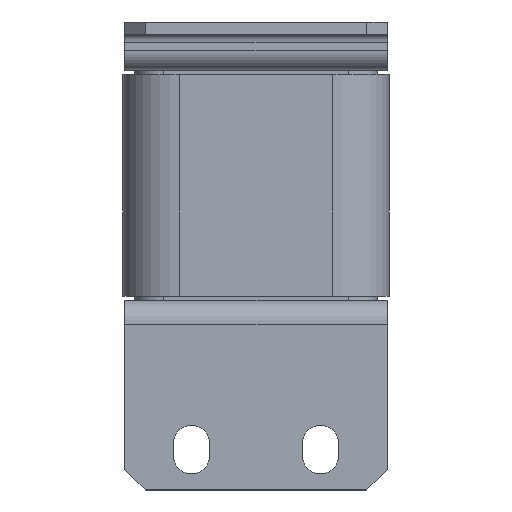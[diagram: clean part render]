
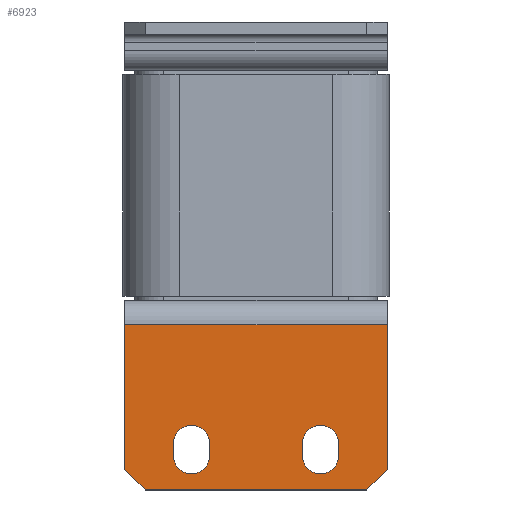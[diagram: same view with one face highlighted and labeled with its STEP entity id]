
A CAD part, front view. The second image highlights one B-rep face of the part: STEP entity #6923.
In plain terms, the highlighted planar face has unit normal (0, -1, 0).
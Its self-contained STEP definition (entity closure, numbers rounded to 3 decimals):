
#64 = ORIENTED_EDGE ( 'NONE', *, *, #2293, .T. ) ;
#168 = CARTESIAN_POINT ( 'NONE',  ( -50.368, -16.503, -94.5 ) ) ;
#207 = DIRECTION ( 'NONE',  ( 0., 0., 1. ) ) ;
#256 = DIRECTION ( 'NONE',  ( 0., -1., 0. ) ) ;
#304 = VECTOR ( 'NONE', #13397, 1000. ) ;
#440 = CIRCLE ( 'NONE', #6104, 4.5 ) ;
#509 = CARTESIAN_POINT ( 'NONE',  ( -57.368, -16.503, -103. ) ) ;
#952 = VERTEX_POINT ( 'NONE', #8297 ) ;
#963 = VERTEX_POINT ( 'NONE', #9415 ) ;
#1125 = DIRECTION ( 'NONE',  ( 1., 0., 0. ) ) ;
#1152 = AXIS2_PLACEMENT_3D ( 'NONE', #9419, #2659, #6081 ) ;
#1170 = CARTESIAN_POINT ( 'NONE',  ( -9.368, -16.503, -94.5 ) ) ;
#1250 = EDGE_CURVE ( 'NONE', #1769, #7248, #12061, .T. ) ;
#1422 = DIRECTION ( 'NONE',  ( 0., -1., 0. ) ) ;
#1595 = EDGE_CURVE ( 'NONE', #2681, #8225, #12198, .T. ) ;
#1769 = VERTEX_POINT ( 'NONE', #12005 ) ;
#1875 = EDGE_CURVE ( 'NONE', #7248, #3038, #4890, .T. ) ;
#1923 = DIRECTION ( 'NONE',  ( 0., 0., 1. ) ) ;
#1982 = ORIENTED_EDGE ( 'NONE', *, *, #1250, .F. ) ;
#2159 = EDGE_CURVE ( 'NONE', #952, #3716, #440, .T. ) ;
#2293 = EDGE_CURVE ( 'NONE', #9846, #12823, #8742, .T. ) ;
#2346 = FACE_BOUND ( 'NONE', #9428, .T. ) ;
#2433 = DIRECTION ( 'NONE',  ( 0., -1., 0. ) ) ;
#2542 = CARTESIAN_POINT ( 'NONE',  ( -62.368, -16.503, -62. ) ) ;
#2659 = DIRECTION ( 'NONE',  ( 0., -1., 0. ) ) ;
#2681 = VERTEX_POINT ( 'NONE', #4518 ) ;
#2765 = CARTESIAN_POINT ( 'NONE',  ( -62.368, -16.503, -98. ) ) ;
#2812 = DIRECTION ( 'NONE',  ( 0., 0., -1. ) ) ;
#2907 = ORIENTED_EDGE ( 'NONE', *, *, #2159, .F. ) ;
#3038 = VERTEX_POINT ( 'NONE', #6482 ) ;
#3045 = FACE_OUTER_BOUND ( 'NONE', #7332, .T. ) ;
#3343 = LINE ( 'NONE', #6739, #304 ) ;
#3438 = CARTESIAN_POINT ( 'NONE',  ( -9.368, -16.503, -94.5 ) ) ;
#3557 = ORIENTED_EDGE ( 'NONE', *, *, #6084, .F. ) ;
#3597 = DIRECTION ( 'NONE',  ( 0., -1., 0. ) ) ;
#3599 = CARTESIAN_POINT ( 'NONE',  ( -13.868, -16.503, -94.5 ) ) ;
#3628 = VECTOR ( 'NONE', #13030, 1000. ) ;
#3630 = VERTEX_POINT ( 'NONE', #8859 ) ;
#3633 = CARTESIAN_POINT ( 'NONE',  ( -45.868, -16.503, -94.5 ) ) ;
#3688 = AXIS2_PLACEMENT_3D ( 'NONE', #6026, #11878, #6123 ) ;
#3716 = VERTEX_POINT ( 'NONE', #3438 ) ;
#3954 = DIRECTION ( 'NONE',  ( 0., 0., -1. ) ) ;
#4076 = CARTESIAN_POINT ( 'NONE',  ( -2.368, -16.503, -103. ) ) ;
#4140 = CARTESIAN_POINT ( 'NONE',  ( 2.632, -16.503, -59. ) ) ;
#4303 = AXIS2_PLACEMENT_3D ( 'NONE', #7878, #4521, #6777 ) ;
#4518 = CARTESIAN_POINT ( 'NONE',  ( -62.368, -16.503, -62. ) ) ;
#4521 = DIRECTION ( 'NONE',  ( 0., -1., 0. ) ) ;
#4558 = DIRECTION ( 'NONE',  ( 1., 0., 0. ) ) ;
#4727 = DIRECTION ( 'NONE',  ( 0., 0., -1. ) ) ;
#4791 = LINE ( 'NONE', #168, #7967 ) ;
#4890 = LINE ( 'NONE', #9665, #13993 ) ;
#4943 = CARTESIAN_POINT ( 'NONE',  ( -18.368, -16.503, -91.5 ) ) ;
#4989 = ORIENTED_EDGE ( 'NONE', *, *, #7389, .T. ) ;
#5542 = VECTOR ( 'NONE', #13847, 1000. ) ;
#5794 = EDGE_CURVE ( 'NONE', #3038, #952, #13823, .T. ) ;
#6026 = CARTESIAN_POINT ( 'NONE',  ( -62.368, -16.503, -59. ) ) ;
#6066 = ORIENTED_EDGE ( 'NONE', *, *, #11989, .F. ) ;
#6081 = DIRECTION ( 'NONE',  ( 0., 0., 1. ) ) ;
#6084 = EDGE_CURVE ( 'NONE', #963, #9418, #13063, .T. ) ;
#6104 = AXIS2_PLACEMENT_3D ( 'NONE', #12801, #3597, #7073 ) ;
#6123 = DIRECTION ( 'NONE',  ( 0., 0., -1. ) ) ;
#6124 = ORIENTED_EDGE ( 'NONE', *, *, #1875, .F. ) ;
#6159 = CARTESIAN_POINT ( 'NONE',  ( -41.368, -16.503, -94.5 ) ) ;
#6216 = CARTESIAN_POINT ( 'NONE',  ( -2.368, -16.503, -103. ) ) ;
#6482 = CARTESIAN_POINT ( 'NONE',  ( -18.368, -16.503, -94.5 ) ) ;
#6572 = CARTESIAN_POINT ( 'NONE',  ( -45.868, -16.503, -99. ) ) ;
#6739 = CARTESIAN_POINT ( 'NONE',  ( -41.368, -16.503, -94.5 ) ) ;
#6777 = DIRECTION ( 'NONE',  ( 0., 0., -1. ) ) ;
#6923 = ADVANCED_FACE ( 'NONE', ( #10636, #2346, #3045 ), #14047, .F. ) ;
#7004 = EDGE_CURVE ( 'NONE', #2681, #9740, #9041, .T. ) ;
#7073 = DIRECTION ( 'NONE',  ( 0., 0., -1. ) ) ;
#7125 = ORIENTED_EDGE ( 'NONE', *, *, #14594, .F. ) ;
#7161 = EDGE_CURVE ( 'NONE', #12823, #8225, #13697, .T. ) ;
#7248 = VERTEX_POINT ( 'NONE', #4943 ) ;
#7332 = EDGE_LOOP ( 'NONE', ( #9768, #12840, #4989, #10353, #64, #11644 ) ) ;
#7389 = EDGE_CURVE ( 'NONE', #9740, #12113, #8841, .T. ) ;
#7467 = LINE ( 'NONE', #8979, #11253 ) ;
#7495 = EDGE_LOOP ( 'NONE', ( #12107, #6124, #1982, #13086, #2907 ) ) ;
#7836 = EDGE_CURVE ( 'NONE', #8779, #3630, #3343, .T. ) ;
#7878 = CARTESIAN_POINT ( 'NONE',  ( -13.868, -16.503, -91.5 ) ) ;
#7967 = VECTOR ( 'NONE', #12609, 1000. ) ;
#8171 = LINE ( 'NONE', #1170, #5542 ) ;
#8225 = VERTEX_POINT ( 'NONE', #12123 ) ;
#8297 = CARTESIAN_POINT ( 'NONE',  ( -13.868, -16.503, -99. ) ) ;
#8374 = AXIS2_PLACEMENT_3D ( 'NONE', #3633, #1422, #12789 ) ;
#8484 = CARTESIAN_POINT ( 'NONE',  ( -62.368, -16.503, -98. ) ) ;
#8722 = AXIS2_PLACEMENT_3D ( 'NONE', #12642, #256, #207 ) ;
#8742 = LINE ( 'NONE', #6216, #3628 ) ;
#8779 = VERTEX_POINT ( 'NONE', #6159 ) ;
#8803 = AXIS2_PLACEMENT_3D ( 'NONE', #3599, #2433, #4727 ) ;
#8841 = LINE ( 'NONE', #509, #11511 ) ;
#8859 = CARTESIAN_POINT ( 'NONE',  ( -41.368, -16.503, -91.5 ) ) ;
#8979 = CARTESIAN_POINT ( 'NONE',  ( -2.368, -16.503, -103. ) ) ;
#9041 = LINE ( 'NONE', #2765, #14067 ) ;
#9102 = CIRCLE ( 'NONE', #8722, 4.5 ) ;
#9120 = ORIENTED_EDGE ( 'NONE', *, *, #7836, .F. ) ;
#9415 = CARTESIAN_POINT ( 'NONE',  ( -50.368, -16.503, -94.5 ) ) ;
#9418 = VERTEX_POINT ( 'NONE', #6572 ) ;
#9419 = CARTESIAN_POINT ( 'NONE',  ( -45.868, -16.503, -94.5 ) ) ;
#9428 = EDGE_LOOP ( 'NONE', ( #3557, #10163, #7125, #9120, #6066 ) ) ;
#9492 = VERTEX_POINT ( 'NONE', #14780 ) ;
#9542 = DIRECTION ( 'NONE',  ( 0.707, 0., -0.707 ) ) ;
#9662 = VECTOR ( 'NONE', #4558, 1000. ) ;
#9665 = CARTESIAN_POINT ( 'NONE',  ( -18.368, -16.503, -94.5 ) ) ;
#9740 = VERTEX_POINT ( 'NONE', #8484 ) ;
#9768 = ORIENTED_EDGE ( 'NONE', *, *, #1595, .F. ) ;
#9846 = VERTEX_POINT ( 'NONE', #4076 ) ;
#10163 = ORIENTED_EDGE ( 'NONE', *, *, #11178, .F. ) ;
#10353 = ORIENTED_EDGE ( 'NONE', *, *, #14445, .T. ) ;
#10636 = FACE_BOUND ( 'NONE', #7495, .T. ) ;
#10637 = CARTESIAN_POINT ( 'NONE',  ( -57.368, -16.503, -103. ) ) ;
#10949 = CIRCLE ( 'NONE', #8374, 4.5 ) ;
#11178 = EDGE_CURVE ( 'NONE', #9492, #963, #4791, .T. ) ;
#11253 = VECTOR ( 'NONE', #1125, 1000. ) ;
#11511 = VECTOR ( 'NONE', #9542, 1000. ) ;
#11644 = ORIENTED_EDGE ( 'NONE', *, *, #7161, .T. ) ;
#11878 = DIRECTION ( 'NONE',  ( 0., 1., 0. ) ) ;
#11989 = EDGE_CURVE ( 'NONE', #9418, #8779, #10949, .T. ) ;
#12005 = CARTESIAN_POINT ( 'NONE',  ( -9.368, -16.503, -91.5 ) ) ;
#12061 = CIRCLE ( 'NONE', #4303, 4.5 ) ;
#12107 = ORIENTED_EDGE ( 'NONE', *, *, #5794, .F. ) ;
#12113 = VERTEX_POINT ( 'NONE', #10637 ) ;
#12123 = CARTESIAN_POINT ( 'NONE',  ( 2.632, -16.503, -62. ) ) ;
#12198 = LINE ( 'NONE', #2542, #9662 ) ;
#12609 = DIRECTION ( 'NONE',  ( 0., 0., -1. ) ) ;
#12642 = CARTESIAN_POINT ( 'NONE',  ( -45.868, -16.503, -91.5 ) ) ;
#12789 = DIRECTION ( 'NONE',  ( 0., 0., 1. ) ) ;
#12801 = CARTESIAN_POINT ( 'NONE',  ( -13.868, -16.503, -94.5 ) ) ;
#12823 = VERTEX_POINT ( 'NONE', #13051 ) ;
#12840 = ORIENTED_EDGE ( 'NONE', *, *, #7004, .T. ) ;
#13030 = DIRECTION ( 'NONE',  ( 0.707, 0., 0.707 ) ) ;
#13051 = CARTESIAN_POINT ( 'NONE',  ( 2.632, -16.503, -98. ) ) ;
#13063 = CIRCLE ( 'NONE', #1152, 4.5 ) ;
#13086 = ORIENTED_EDGE ( 'NONE', *, *, #13710, .F. ) ;
#13144 = VECTOR ( 'NONE', #1923, 1000. ) ;
#13397 = DIRECTION ( 'NONE',  ( 0., 0., 1. ) ) ;
#13697 = LINE ( 'NONE', #4140, #13144 ) ;
#13710 = EDGE_CURVE ( 'NONE', #3716, #1769, #8171, .T. ) ;
#13823 = CIRCLE ( 'NONE', #8803, 4.5 ) ;
#13847 = DIRECTION ( 'NONE',  ( 0., 0., 1. ) ) ;
#13993 = VECTOR ( 'NONE', #3954, 1000. ) ;
#14047 = PLANE ( 'NONE',  #3688 ) ;
#14067 = VECTOR ( 'NONE', #2812, 1000. ) ;
#14445 = EDGE_CURVE ( 'NONE', #12113, #9846, #7467, .T. ) ;
#14594 = EDGE_CURVE ( 'NONE', #3630, #9492, #9102, .T. ) ;
#14780 = CARTESIAN_POINT ( 'NONE',  ( -50.368, -16.503, -91.5 ) ) ;
